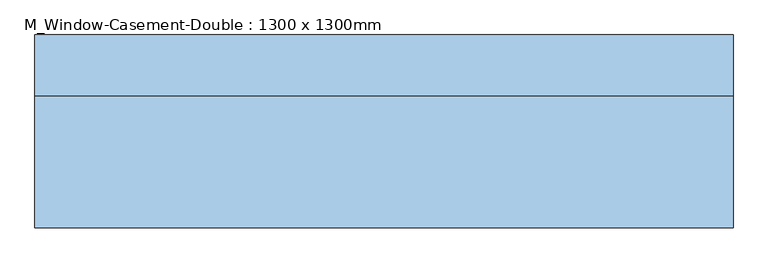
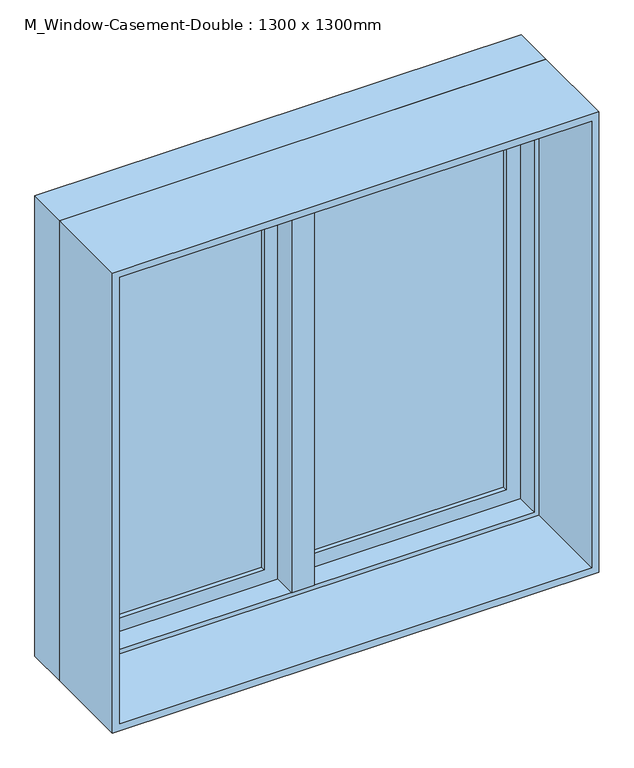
"""IFC4 building model written with IfcOpenShell, lengths in millimetres: window geometry, M_Window-Casement-Double : 1300 x 1300mm."""

from ifc_helpers import new_model, si_unit, frame, origin, place, context, project, spatial, polyline, outline, extrude, faceted_brep, source, transform, mapped, element, save


def m_window_casement_double_1300_x_1300mm_cdc21af0(model_context):
    return source(origin(), model_context, "Body", "SolidModel", [
        faceted_brep([(9.525, 189.05, 2187.3), (-9.525, 189.05, 2187.3), (-9.525, 138.25, 2187.3), (9.525, 138.25, 2187.3), (9.525, 189.05, 912.7), (9.525, 138.25, 912.7), (-9.525, 138.25, 912.7), (-9.525, 189.05, 912.7), (-9.525, 138.25, 931.75), (-9.525, 138.25, 2168.25), (-30.1625, 138.25, 931.75), (-30.1625, 138.25, 2168.25), (-30.1625, 74.75, 931.75), (-30.1625, 74.75, 2168.25), (30.1625, 74.75, 931.75), (30.1625, 74.75, 2168.25), (30.1625, 138.25, 931.75), (30.1625, 138.25, 2168.25), (9.525, 138.25, 931.75), (9.525, 138.25, 2168.25)], [[[0, 1, 2, 3]], [[4, 5, 6, 7]], [[1, 0, 4, 7]], [[2, 1, 7, 6, 8, 9]], [[9, 8, 10, 11]], [[11, 10, 12, 13]], [[13, 12, 14, 15]], [[15, 14, 16, 17]], [[17, 16, 18, 19]], [[0, 3, 19, 18, 5, 4]], [[18, 8, 6, 5]], [[9, 19, 3, 2]], [[8, 18, 16, 14, 12, 10]], [[19, 9, 11, 13, 15, 17]]]),
        extrude(outline(polyline([(-66.675, 170.0), (-66.675, 163.65), (-580.15, 163.65), (-580.15, 170.0), (-66.675, 170.0)])), frame((0.0, 0.0, 969.85), z_axis=(0.0, 0.0, 1.0), x_axis=(1.0, 0.0, 0.0)), (0.0, 0.0, 1.0), 1160.3),
        extrude(outline(polyline([(-580.15, 150.95), (-580.15, 157.3), (-66.675, 157.3), (-66.675, 150.95), (-580.15, 150.95)])), frame((0.0, 0.0, 969.85), z_axis=(0.0, 0.0, 1.0), x_axis=(1.0, 0.0, 0.0)), (0.0, 0.0, 1.0), 1160.3),
        extrude(outline(polyline([(580.15, 170.0), (580.15, 163.65), (66.675, 163.65), (66.675, 170.0), (580.15, 170.0)])), frame((0.0, 0.0, 969.85), z_axis=(0.0, 0.0, 1.0), x_axis=(1.0, 0.0, 0.0)), (0.0, 0.0, 1.0), 1160.3),
        extrude(outline(polyline([(66.675, 150.95), (66.675, 157.3), (580.15, 157.3), (580.15, 150.95), (66.675, 150.95)])), frame((0.0, 0.0, 969.85), z_axis=(0.0, 0.0, 1.0), x_axis=(1.0, 0.0, 0.0)), (0.0, 0.0, 1.0), 1160.3),
        extrude(outline(polyline([(2187.3, -637.3), (912.7, -637.3), (912.7, -9.525), (2187.3, -9.525), (2187.3, -637.3)]), holes=[polyline([(2130.15, -66.675), (969.85, -66.675), (969.85, -580.15), (2130.15, -580.15), (2130.15, -66.675)])]), frame((0.0, 138.25, 0.0), z_axis=(0.0, 1.0, 0.0), x_axis=(0.0, 0.0, 1.0)), (0.0, 0.0, 1.0), 44.45),
        extrude(outline(polyline([(912.7, 637.3), (2187.3, 637.3), (2187.3, 9.525), (912.7, 9.525), (912.7, 637.3)]), holes=[polyline([(969.85, 66.675), (2130.15, 66.675), (2130.15, 580.15), (969.85, 580.15), (969.85, 66.675)])]), frame((0.0, 138.25, 0.0), z_axis=(0.0, 1.0, 0.0), x_axis=(0.0, 0.0, 1.0)), (0.0, 0.0, 1.0), 44.45),
        extrude(outline(polyline([(2200.0, -650.0), (900.0, -650.0), (900.0, 650.0), (2200.0, 650.0), (2200.0, -650.0)]), holes=[polyline([(2180.95, 630.95), (919.05, 630.95), (919.05, -630.95), (2180.95, -630.95), (2180.95, 630.95)])]), frame((0.0, -170.0, 0.0), z_axis=(0.0, 1.0, 0.0), x_axis=(0.0, 0.0, 1.0)), (0.0, 0.0, 1.0), 244.75),
        faceted_brep([(618.25, 138.25, 2168.25), (618.25, 74.75, 2168.25), (-618.25, 74.75, 2168.25), (-618.25, 138.25, 2168.25), (637.3, 189.05, 2187.3), (637.3, 138.25, 2187.3), (-637.3, 138.25, 2187.3), (-637.3, 189.05, 2187.3), (650.0, 74.75, 2200.0), (650.0, 189.05, 2200.0), (-650.0, 189.05, 2200.0), (-650.0, 74.75, 2200.0), (-618.25, 74.75, 931.75), (-618.25, 138.25, 931.75), (-637.3, 138.25, 912.7), (-637.3, 189.05, 912.7), (-650.0, 189.05, 900.0), (-650.0, 74.75, 900.0), (618.25, 74.75, 931.75), (618.25, 138.25, 931.75), (637.3, 138.25, 912.7), (637.3, 189.05, 912.7), (650.0, 189.05, 900.0), (650.0, 74.75, 900.0)], [[[0, 1, 2, 3]], [[4, 5, 6, 7]], [[8, 9, 10, 11]], [[3, 2, 12, 13]], [[7, 6, 14, 15]], [[11, 10, 16, 17]], [[13, 12, 18, 19]], [[15, 14, 20, 21]], [[17, 16, 22, 23]], [[11, 17, 23, 8], [1, 18, 12, 2]], [[19, 18, 1, 0]], [[5, 20, 14, 6], [3, 13, 19, 0]], [[21, 20, 5, 4]], [[23, 22, 9, 8]], [[9, 22, 16, 10], [7, 15, 21, 4]]]),
    ])


if __name__ == "__main__":
    model = new_model("IFC4")
    model_context = context("Model", 3, world=origin())
    ifc_project = project(units=[si_unit("LENGTHUNIT", "METRE", prefix="MILLI")], contexts=[model_context])
    site = spatial("IfcSite", under=ifc_project)
    building = spatial("IfcBuilding", under=site)
    placement = place(None, origin())
    m_window_casement_double_1300_x_1300mm_shape = m_window_casement_double_1300_x_1300mm_cdc21af0(model_context)
    element("IfcWindow", 1, ObjectType="M_Window-Casement-Double : 1300 x 1300mm", at=placement, inside=building, context=model_context, shape_type="MappedRepresentation", body=[
        mapped(m_window_casement_double_1300_x_1300mm_shape, transform((0.0, 0.0, 0.0), x_axis=(1.0, 0.0, 0.0), y_axis=(0.0, 1.0, 0.0), z_axis=(0.0, 0.0, 1.0))),
    ])
    save(model, "model.ifc")
